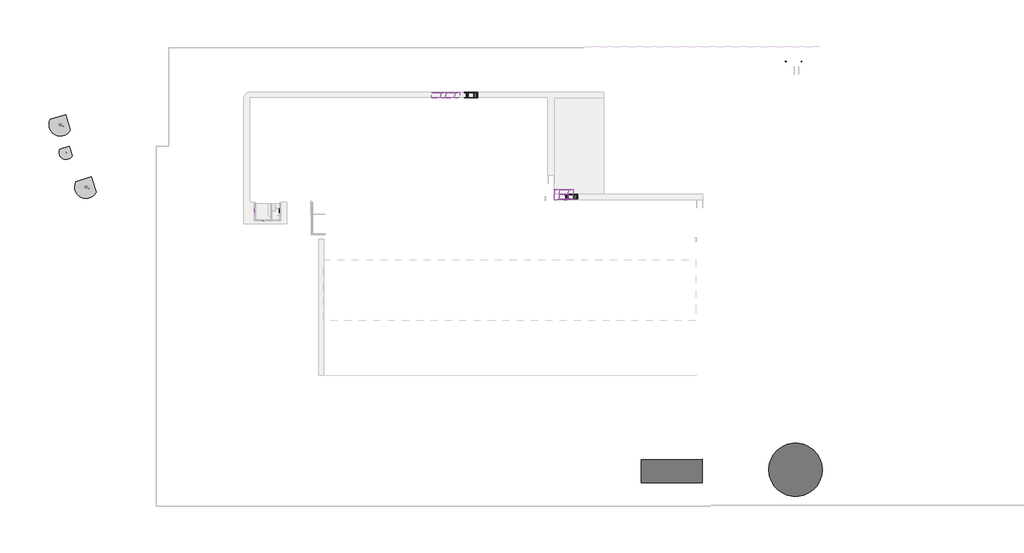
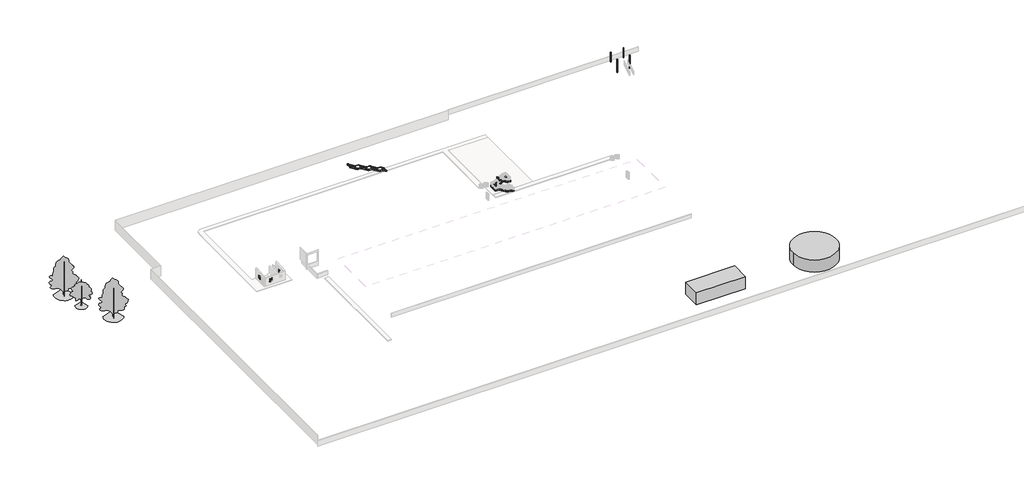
# One storey, part 5 of 5: 30 members, 14 proxies, 8 stair flights, 6 slabs, 3 geographic elements.
"""IFC4 building model written with IfcOpenShell, lengths in millimetres."""

from ifc_helpers import new_model, si_unit, frame, origin, place, context, project, spatial, polyline, outline, extrude, faceted_brep, transform, mapped, element, save
from components import generic_models_20_generic_models_4_ba02a456, generic_models_30_generic_models_30_3eaa5fd3, m_muntin_pattern_2x2_m_muntin_pattern_2x2_62480ac4, m_muntin_pattern_2x2_m_muntin_pattern_2x2_4fd78f17, m_trim_window_exterior_flat_with_sill_90d3a428, m_trim_window_interior_flat_picture_frame_6ca9b1f8, m_rpc_tree_deciduous_largetooth_aspen_7_6_meters_7a32e79d, m_rpc_tree_deciduous_lombardy_poplar_12_2_meters_1b309f58, non_monolithic_landing_6755de2e, non_monolithic_landing_e93c148b, non_monolithic_landing_cc45a5ca, non_monolithic_landing_4fb2c556, non_monolithic_landing_f0037221, non_monolithic_landing_c6595e20, stair_flight_50mm_tread_13mm_riser_ee1dcc22, stair_flight_50mm_tread_13mm_riser_03961c6e, stair_flight_50mm_tread_13mm_riser_1ab12aa5, stair_flight_50mm_tread_13mm_riser_1580f58f, stair_flight_50mm_tread_13mm_riser_b98c4656, stair_flight_50mm_tread_13mm_riser_43bc9998, stair_flight_50mm_tread_13mm_riser_e2b574ec, stair_flight_50mm_tread_13mm_riser_676722f2

model = new_model("IFC4")

# Units and contexts
model_context = context("Model", 3, world=origin())
ifc_project = project(units=[si_unit("LENGTHUNIT", "METRE", prefix="MILLI")], contexts=[model_context])

# Site, building, storey
site = spatial("IfcSite", under=ifc_project)
building = spatial("IfcBuilding", under=site)
storey = spatial("IfcBuildingStorey", under=building, Name="Hardstand", Elevation=42810.0)

# Proxies
placement = place(None, origin())
generic_models_20_generic_models_4_shape = generic_models_20_generic_models_4_ba02a456(model_context)
element("IfcBuildingElementProxy", 1, Name="Generic Models 20 : Generic Models 4", ObjectType="Generic Models 20 : Generic Models 4", at=placement, inside=storey, context=model_context, shape_type="MappedRepresentation", body=[
    mapped(generic_models_20_generic_models_4_shape, transform((0.0, 0.0, 0.0), x_axis=(1.0, 0.0, 0.0), y_axis=(0.0, 1.0, 0.0), z_axis=(0.0, 0.0, 1.0))),
])
generic_models_30_generic_models_30_shape = generic_models_30_generic_models_30_3eaa5fd3(model_context)
element("IfcBuildingElementProxy", 2, Name="Generic Models 30 : Generic Models 30", ObjectType="Generic Models 30 : Generic Models 30", at=placement, inside=storey, context=model_context, shape_type="MappedRepresentation", body=[
    mapped(generic_models_30_generic_models_30_shape, transform((0.0, 0.0, 0.0), x_axis=(1.0, 0.0, 0.0), y_axis=(0.0, 1.0, 0.0), z_axis=(0.0, 0.0, 1.0))),
])
m_muntin_pattern_2x2_m_muntin_pattern_2x2_shape = m_muntin_pattern_2x2_m_muntin_pattern_2x2_62480ac4(model_context)
element("IfcBuildingElementProxy", 3, Name="M_Muntin Pattern_2x2 : M_Muntin Pattern_2x2", ObjectType="M_Muntin Pattern_2x2 : M_Muntin Pattern_2x2", at=placement, inside=storey, context=model_context, shape_type="MappedRepresentation", body=[
    mapped(m_muntin_pattern_2x2_m_muntin_pattern_2x2_shape, transform((-145790.0708495, 9620.4941267, 43779.85), x_axis=(0.0, -1.0, 0.0), y_axis=(1.0, 0.0, 0.0), z_axis=(0.0, 0.0, 1.0))),
])
element("IfcBuildingElementProxy", 4, Name="M_Muntin Pattern_2x2 : M_Muntin Pattern_2x2", ObjectType="M_Muntin Pattern_2x2 : M_Muntin Pattern_2x2", at=placement, inside=storey, context=model_context, shape_type="MappedRepresentation", body=[
    mapped(m_muntin_pattern_2x2_m_muntin_pattern_2x2_shape, transform((-152141.276408, 9383.260357, 44056.2199193), x_axis=(0.0, 1.0, 0.0), y_axis=(-1.0, 0.0, 0.0), z_axis=(0.0, 0.0, 1.0))),
])
element("IfcBuildingElementProxy", 5, Name="M_Muntin Pattern_2x2 : M_Muntin Pattern_2x2", ObjectType="M_Muntin Pattern_2x2 : M_Muntin Pattern_2x2", at=placement, inside=storey, context=model_context, shape_type="MappedRepresentation", body=[
    mapped(m_muntin_pattern_2x2_m_muntin_pattern_2x2_shape, transform((-149868.8919664, 6998.5408271, 44093.5364148), x_axis=(-1.0, 0.0, 0.0), y_axis=(0.0, -1.0, 0.0), z_axis=(0.0, 0.0, 1.0))),
])
m_muntin_pattern_2x2_m_muntin_pattern_2x2_2_shape = m_muntin_pattern_2x2_m_muntin_pattern_2x2_4fd78f17(model_context)
element("IfcBuildingElementProxy", 6, Name="M_Muntin Pattern_2x2 : M_Muntin Pattern_2x2", ObjectType="M_Muntin Pattern_2x2 : M_Muntin Pattern_2x2", at=placement, inside=storey, context=model_context, shape_type="MappedRepresentation", body=[
    mapped(m_muntin_pattern_2x2_m_muntin_pattern_2x2_2_shape, transform((-145790.0708495, 9198.6691267, 43779.85), x_axis=(0.0, 1.0, 0.0), y_axis=(-1.0, 0.0, 0.0), z_axis=(0.0, 0.0, 1.0))),
])
element("IfcBuildingElementProxy", 7, Name="M_Muntin Pattern_2x2 : M_Muntin Pattern_2x2", ObjectType="M_Muntin Pattern_2x2 : M_Muntin Pattern_2x2", at=placement, inside=storey, context=model_context, shape_type="MappedRepresentation", body=[
    mapped(m_muntin_pattern_2x2_m_muntin_pattern_2x2_2_shape, transform((-152141.276408, 9805.085357, 44056.2199193), x_axis=(0.0, -1.0, 0.0), y_axis=(1.0, 0.0, 0.0), z_axis=(0.0, 0.0, 1.0))),
])
element("IfcBuildingElementProxy", 8, Name="M_Muntin Pattern_2x2 : M_Muntin Pattern_2x2", ObjectType="M_Muntin Pattern_2x2 : M_Muntin Pattern_2x2", at=placement, inside=storey, context=model_context, shape_type="MappedRepresentation", body=[
    mapped(m_muntin_pattern_2x2_m_muntin_pattern_2x2_2_shape, transform((-150290.7169664, 6998.5408271, 44093.5364148), x_axis=(1.0, 0.0, 0.0), y_axis=(0.0, 1.0, 0.0), z_axis=(0.0, 0.0, 1.0))),
])
m_trim_window_exterior_flat_with_sill_shape = m_trim_window_exterior_flat_with_sill_90d3a428(model_context)
element("IfcBuildingElementProxy", 9, Name="M_Trim-Window-Exterior-Flat : with Sill", ObjectType="M_Trim-Window-Exterior-Flat : with Sill", at=placement, inside=storey, context=model_context, shape_type="MappedRepresentation", body=[
    mapped(m_trim_window_exterior_flat_with_sill_shape, transform((-145780.5458495, 9409.5816267, 44610.0), x_axis=(0.0, 1.0, 0.0), y_axis=(0.0, 0.0, 1.0), z_axis=(1.0, 0.0, 0.0))),
])
element("IfcBuildingElementProxy", 10, Name="M_Trim-Window-Exterior-Flat : with Sill", ObjectType="M_Trim-Window-Exterior-Flat : with Sill", at=placement, inside=storey, context=model_context, shape_type="MappedRepresentation", body=[
    mapped(m_trim_window_exterior_flat_with_sill_shape, transform((-152150.801408, 9594.172857, 44886.3699193), x_axis=(0.0, -1.0, 0.0), y_axis=(0.0, 0.0, 1.0), z_axis=(-1.0, 0.0, 0.0))),
])
element("IfcBuildingElementProxy", 11, Name="M_Trim-Window-Exterior-Flat : with Sill", ObjectType="M_Trim-Window-Exterior-Flat : with Sill", at=placement, inside=storey, context=model_context, shape_type="MappedRepresentation", body=[
    mapped(m_trim_window_exterior_flat_with_sill_shape, transform((-150079.8044664, 6989.0158271, 44923.6864148), x_axis=(1.0, 0.0, 0.0), y_axis=(0.0, 0.0, 1.0), z_axis=(0.0, -1.0, 0.0))),
])
m_trim_window_interior_flat_picture_frame_shape = m_trim_window_interior_flat_picture_frame_6ca9b1f8(model_context)
element("IfcBuildingElementProxy", 12, Name="M_Trim-Window-Interior-Flat : Picture Frame", ObjectType="M_Trim-Window-Interior-Flat : Picture Frame", at=placement, inside=storey, context=model_context, shape_type="MappedRepresentation", body=[
    mapped(m_trim_window_interior_flat_picture_frame_shape, transform((-146050.5458495, 9409.5816267, 44610.0), x_axis=(0.0, -1.0, 0.0), y_axis=(0.0, 0.0, 1.0), z_axis=(-1.0, 0.0, 0.0))),
])
element("IfcBuildingElementProxy", 13, Name="M_Trim-Window-Interior-Flat : Picture Frame", ObjectType="M_Trim-Window-Interior-Flat : Picture Frame", at=placement, inside=storey, context=model_context, shape_type="MappedRepresentation", body=[
    mapped(m_trim_window_interior_flat_picture_frame_shape, transform((-151880.801408, 9594.172857, 44886.3699193), x_axis=(0.0, 1.0, 0.0), y_axis=(0.0, 0.0, 1.0), z_axis=(1.0, 0.0, 0.0))),
])
element("IfcBuildingElementProxy", 14, Name="M_Trim-Window-Interior-Flat : Picture Frame", ObjectType="M_Trim-Window-Interior-Flat : Picture Frame", at=placement, inside=storey, context=model_context, shape_type="MappedRepresentation", body=[
    mapped(m_trim_window_interior_flat_picture_frame_shape, transform((-150079.8044664, 7259.0158271, 44923.6864148), x_axis=(-1.0, 0.0, 0.0), y_axis=(0.0, 0.0, 1.0), z_axis=(0.0, 1.0, 0.0))),
])

# Geographic elements
m_rpc_tree_deciduous_largetooth_aspen_7_6_meters_shape = m_rpc_tree_deciduous_largetooth_aspen_7_6_meters_7a32e79d(model_context)
element("IfcGeographicElement", 15, ObjectType="M_RPC Tree - Deciduous : Largetooth Aspen - 7.6 Meters", at=placement, inside=storey, context=model_context, shape_type="MappedRepresentation", body=[
    mapped(m_rpc_tree_deciduous_largetooth_aspen_7_6_meters_shape, transform((-197976.2013904, 23610.6990649, 42810.0), x_axis=(0.8837420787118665, -0.4679742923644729, 0.0), y_axis=(0.4679742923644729, 0.8837420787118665, 0.0), z_axis=(0.0, 0.0, 1.0))),
])
m_rpc_tree_deciduous_lombardy_poplar_12_2_meters_shape = m_rpc_tree_deciduous_lombardy_poplar_12_2_meters_1b309f58(model_context)
element("IfcGeographicElement", 16, ObjectType="M_RPC Tree - Deciduous : Lombardy Poplar - 12.2 Meters", at=placement, inside=storey, context=model_context, shape_type="MappedRepresentation", body=[
    mapped(m_rpc_tree_deciduous_lombardy_poplar_12_2_meters_shape, transform((-199384.4027872, 30353.6189685, 42810.0), x_axis=(0.8837420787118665, -0.4679742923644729, 0.0), y_axis=(0.4679742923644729, 0.8837420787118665, 0.0), z_axis=(0.0, 0.0, 1.0))),
])
element("IfcGeographicElement", 17, ObjectType="M_RPC Tree - Deciduous : Lombardy Poplar - 12.2 Meters", at=placement, inside=storey, context=model_context, shape_type="MappedRepresentation", body=[
    mapped(m_rpc_tree_deciduous_lombardy_poplar_12_2_meters_shape, transform((-193147.2981612, 15207.4703267, 42810.0), x_axis=(0.8837420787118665, -0.4679742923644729, 0.0), y_axis=(0.4679742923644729, 0.8837420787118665, 0.0), z_axis=(0.0, 0.0, 1.0))),
])

# Members
element("IfcMember", 18, ObjectType="Stringer - 50mm Width", at=placement, inside=storey, context=model_context, shape_type="SweptSolid", body=[
    extrude(outline(polyline([(46312.5, -106631.3296755), (46712.5, -106517.3329408), (48238.9454932, -108977.8719448), (47768.2252967, -108977.8719448), (46312.5, -106631.3296755)])), frame((0.0, 36928.2777512, 0.0), z_axis=(0.0, 1.0, 0.0), x_axis=(0.0, 0.0, 1.0)), (0.0, 0.0, 1.0), 50.0),
])
element("IfcMember", 19, ObjectType="Stringer - 50mm Width", at=placement, inside=storey, context=model_context, shape_type="SweptSolid", body=[
    extrude(outline(polyline([(46312.5, -106631.3296755), (46712.5, -106517.3329408), (48238.9454932, -108977.8719448), (47768.2252967, -108977.8719448), (46312.5, -106631.3296755)])), frame((0.0, 38178.2777512, 0.0), z_axis=(0.0, 1.0, 0.0), x_axis=(0.0, 0.0, 1.0)), (0.0, 0.0, 1.0), 50.0),
])
element("IfcMember", 20, ObjectType="Stringer - 50mm Width", at=placement, inside=storey, context=model_context, shape_type="SweptSolid", body=[
    extrude(outline(polyline([(44805.0, -103271.3296755), (45205.0, -103157.3329408), (46712.5, -105587.3329408), (46312.5, -105701.3296755), (44805.0, -103271.3296755)])), frame((0.0, 36928.2777512, 0.0), z_axis=(0.0, 1.0, 0.0), x_axis=(0.0, 0.0, 1.0)), (0.0, 0.0, 1.0), 50.0),
])
element("IfcMember", 21, ObjectType="Stringer - 50mm Width", at=placement, inside=storey, context=model_context, shape_type="SweptSolid", body=[
    extrude(outline(polyline([(44805.0, -103271.3296755), (45205.0, -103157.3329408), (46712.5, -105587.3329408), (46312.5, -105701.3296755), (44805.0, -103271.3296755)])), frame((0.0, 38178.2777512, 0.0), z_axis=(0.0, 1.0, 0.0), x_axis=(0.0, 0.0, 1.0)), (0.0, 0.0, 1.0), 50.0),
])
element("IfcMember", 22, ObjectType="Stringer - 50mm Width", at=placement, inside=storey, context=model_context, shape_type="SweptSolid", body=[
    extrude(outline(polyline([(46712.5, -106517.3329408), (46312.5, -106631.3296755), (46312.5, -105701.3296755), (46712.5, -105587.3329408), (46712.5, -106517.3329408)])), frame((0.0, 36928.2777512, 0.0), z_axis=(0.0, 1.0, 0.0), x_axis=(0.0, 0.0, 1.0)), (0.0, 0.0, 1.0), 50.0),
])
element("IfcMember", 23, ObjectType="Stringer - 50mm Width", at=placement, inside=storey, context=model_context, shape_type="SweptSolid", body=[
    extrude(outline(polyline([(46312.5, -105701.3296755), (46712.5, -105587.3329408), (46712.5, -106517.3329408), (46312.5, -106631.3296755), (46312.5, -105701.3296755)])), frame((0.0, 38178.2777512, 0.0), z_axis=(0.0, 1.0, 0.0), x_axis=(0.0, 0.0, 1.0)), (0.0, 0.0, 1.0), 50.0),
])
element("IfcMember", 24, ObjectType="Stringer - 50mm Width", at=placement, inside=storey, context=model_context, shape_type="SweptSolid", body=[
    extrude(outline(polyline([(43297.5, -99911.3296755), (43697.5, -99797.3329408), (45205.0, -102227.3329408), (44805.0, -102341.3296755), (43297.5, -99911.3296755)])), frame((0.0, 36928.2777512, 0.0), z_axis=(0.0, 1.0, 0.0), x_axis=(0.0, 0.0, 1.0)), (0.0, 0.0, 1.0), 50.0),
])
element("IfcMember", 25, ObjectType="Stringer - 50mm Width", at=placement, inside=storey, context=model_context, shape_type="SweptSolid", body=[
    extrude(outline(polyline([(43297.5, -99911.3296755), (43697.5, -99797.3329408), (45205.0, -102227.3329408), (44805.0, -102341.3296755), (43297.5, -99911.3296755)])), frame((0.0, 38178.2777512, 0.0), z_axis=(0.0, 1.0, 0.0), x_axis=(0.0, 0.0, 1.0)), (0.0, 0.0, 1.0), 50.0),
])
element("IfcMember", 26, ObjectType="Stringer - 50mm Width", at=placement, inside=storey, context=model_context, shape_type="SweptSolid", body=[
    extrude(outline(polyline([(45205.0, -103157.3329408), (44805.0, -103271.3296755), (44805.0, -102341.3296755), (45205.0, -102227.3329408), (45205.0, -103157.3329408)])), frame((0.0, 36928.2777512, 0.0), z_axis=(0.0, 1.0, 0.0), x_axis=(0.0, 0.0, 1.0)), (0.0, 0.0, 1.0), 50.0),
])
element("IfcMember", 27, ObjectType="Stringer - 50mm Width", at=placement, inside=storey, context=model_context, shape_type="SweptSolid", body=[
    extrude(outline(polyline([(44805.0, -102341.3296755), (45205.0, -102227.3329408), (45205.0, -103157.3329408), (44805.0, -103271.3296755), (44805.0, -102341.3296755)])), frame((0.0, 38178.2777512, 0.0), z_axis=(0.0, 1.0, 0.0), x_axis=(0.0, 0.0, 1.0)), (0.0, 0.0, 1.0), 50.0),
])
element("IfcMember", 28, ObjectType="Stringer - 50mm Width", at=placement, inside=storey, context=model_context, shape_type="SweptSolid", body=[
    extrude(outline(polyline([(42810.0, -97817.8719448), (43046.4454932, -97817.8719448), (43697.5, -98867.3329408), (43297.5, -98981.3296755), (42810.0, -98195.50878), (42810.0, -97817.8719448)])), frame((0.0, 36928.2777512, 0.0), z_axis=(0.0, 1.0, 0.0), x_axis=(0.0, 0.0, 1.0)), (0.0, 0.0, 1.0), 50.0),
])
element("IfcMember", 29, ObjectType="Stringer - 50mm Width", at=placement, inside=storey, context=model_context, shape_type="SweptSolid", body=[
    extrude(outline(polyline([(42810.0, -97817.8719448), (43046.4454932, -97817.8719448), (43697.5, -98867.3329408), (43297.5, -98981.3296755), (42810.0, -98195.50878), (42810.0, -97817.8719448)])), frame((0.0, 38178.2777512, 0.0), z_axis=(0.0, 1.0, 0.0), x_axis=(0.0, 0.0, 1.0)), (0.0, 0.0, 1.0), 50.0),
])
element("IfcMember", 30, ObjectType="Stringer - 50mm Width", at=placement, inside=storey, context=model_context, shape_type="SweptSolid", body=[
    extrude(outline(polyline([(43697.5, -99797.3329408), (43297.5, -99911.3296755), (43297.5, -98981.3296755), (43697.5, -98867.3329408), (43697.5, -99797.3329408)])), frame((0.0, 36928.2777512, 0.0), z_axis=(0.0, 1.0, 0.0), x_axis=(0.0, 0.0, 1.0)), (0.0, 0.0, 1.0), 50.0),
])
element("IfcMember", 31, ObjectType="Stringer - 50mm Width", at=placement, inside=storey, context=model_context, shape_type="SweptSolid", body=[
    extrude(outline(polyline([(43297.5, -98981.3296755), (43697.5, -98867.3329408), (43697.5, -99797.3329408), (43297.5, -99911.3296755), (43297.5, -98981.3296755)])), frame((0.0, 38178.2777512, 0.0), z_axis=(0.0, 1.0, 0.0), x_axis=(0.0, 0.0, 1.0)), (0.0, 0.0, 1.0), 50.0),
])
element("IfcMember", 32, ObjectType="Stringer - 50mm Width", at=placement, inside=storey, context=model_context, shape_type="SweptSolid", body=[
    extrude(outline(polyline([(46312.5, -75612.0490346), (46712.5, -75498.0522998), (48238.9454932, -77958.5913038), (47768.2252967, -77958.5913038), (46312.5, -75612.0490346)])), frame((0.0, 12142.1710387, 0.0), z_axis=(0.0, 1.0, 0.0), x_axis=(0.0, 0.0, 1.0)), (0.0, 0.0, 1.0), 50.0),
])
element("IfcMember", 33, ObjectType="Stringer - 50mm Width", at=placement, inside=storey, context=model_context, shape_type="Brep", body=[
    faceted_brep([(-77958.5913038, 13442.1710387, 48238.9454932), (-77958.5913038, 13442.1710387, 47768.2252967), (-77958.5913038, 13392.1710387, 47768.2252967), (-77958.5913038, 13392.1710387, 48238.9454932), (-75798.5913038, 13392.1710387, 46898.9454932), (-75798.5913038, 13442.1710387, 46898.9454932), (-75798.5913038, 13392.1710387, 46428.2252967), (-75798.5913038, 13392.1710387, 46731.4454932), (-75798.5913038, 13442.1710387, 46428.2252967)], [[[0, 1, 2, 3]], [[4, 5, 0, 3]], [[6, 7, 4, 3, 2]], [[8, 6, 2, 1]], [[5, 8, 1, 0]], [[5, 4, 7, 6, 8]]]),
])
element("IfcMember", 34, ObjectType="Stringer - 50mm Width", at=placement, inside=storey, context=model_context, shape_type="SweptSolid", body=[
    extrude(outline(polyline([(45205.0, -78259.1303078), (44805.0, -78145.1335731), (46312.5, -75715.1335731), (46712.5, -75829.1303078), (45205.0, -78259.1303078)])), frame((0.0, 14592.1710387, 0.0), z_axis=(0.0, 1.0, 0.0), x_axis=(0.0, 0.0, 1.0)), (0.0, 0.0, 1.0), 50.0),
])
element("IfcMember", 35, ObjectType="Stringer - 50mm Width", at=placement, inside=storey, context=model_context, shape_type="Brep", body=[
    faceted_brep([(-77958.5913038, 13392.1710387, 45391.4454932), (-77958.5913038, 13342.1710387, 45391.4454932), (-75798.5913038, 13342.1710387, 46731.4454932), (-75798.5913038, 13392.1710387, 46731.4454932), (-77958.5913038, 13392.1710387, 44920.7252967), (-75798.5913038, 13392.1710387, 46428.2252967), (-75798.5913038, 13392.1710387, 46260.7252967), (-77958.5913038, 13342.1710387, 44920.7252967), (-75798.5913038, 13342.1710387, 46260.7252967)], [[[0, 1, 2, 3]], [[4, 0, 3, 5, 6]], [[7, 4, 6, 8]], [[1, 7, 8, 2]], [[1, 0, 4, 7]], [[2, 8, 6, 5, 3]]]),
])
element("IfcMember", 36, ObjectType="Stringer - 50mm Width", at=placement, inside=storey, context=model_context, shape_type="Brep", body=[
    faceted_brep([(-75498.0522998, 12192.1710387, 46712.5), (-75498.0522998, 12142.1710387, 46712.5), (-74548.5913038, 12142.1710387, 46712.5), (-74598.5913038, 12192.1710387, 46712.5), (-75612.0490346, 12192.1710387, 46312.5), (-74598.5913038, 12192.1710387, 46312.5), (-75612.0490346, 12142.1710387, 46312.5), (-74548.5913038, 12142.1710387, 46312.5)], [[[0, 1, 2, 3]], [[4, 0, 3, 5]], [[6, 4, 5, 7]], [[1, 6, 7, 2]], [[1, 0, 4, 6]], [[2, 7, 5, 3]]]),
])
element("IfcMember", 37, ObjectType="Stringer - 50mm Width", at=placement, inside=storey, context=model_context, shape_type="SweptSolid", body=[
    extrude(outline(polyline([(-74548.5913038, 12142.1710387), (-74598.5913038, 12192.1710387), (-74598.5913038, 14592.1710387), (-74548.5913038, 14642.1710387), (-74548.5913038, 12142.1710387)])), frame((0.0, 0.0, 46312.5), z_axis=(0.0, 0.0, 1.0), x_axis=(1.0, 0.0, 0.0)), (0.0, 0.0, 1.0), 400.0),
])
element("IfcMember", 38, ObjectType="Stringer - 50mm Width", at=placement, inside=storey, context=model_context, shape_type="Brep", body=[
    faceted_brep([(-74598.5913038, 14592.1710387, 46712.5), (-74548.5913038, 14642.1710387, 46712.5), (-75829.1303078, 14642.1710387, 46712.5), (-75829.1303078, 14592.1710387, 46712.5), (-74598.5913038, 14592.1710387, 46312.5), (-75715.1335731, 14592.1710387, 46312.5), (-74548.5913038, 14642.1710387, 46312.5), (-75715.1335731, 14642.1710387, 46312.5)], [[[0, 1, 2, 3]], [[4, 0, 3, 5]], [[6, 4, 5, 7]], [[1, 6, 7, 2]], [[1, 0, 4, 6]], [[2, 7, 5, 3]]]),
])
element("IfcMember", 39, ObjectType="Stringer - 50mm Width", at=placement, inside=storey, context=model_context, shape_type="SweptSolid", body=[
    extrude(outline(polyline([(43297.5, -75612.0490346), (43697.5, -75498.0522998), (45205.0, -77928.0522998), (44805.0, -78042.0490346), (43297.5, -75612.0490346)])), frame((0.0, 12092.1710387, 0.0), z_axis=(0.0, 1.0, 0.0), x_axis=(0.0, 0.0, 1.0)), (0.0, 0.0, 1.0), 50.0),
])
element("IfcMember", 40, ObjectType="Stringer - 50mm Width", at=placement, inside=storey, context=model_context, shape_type="SweptSolid", body=[
    extrude(outline(polyline([(43297.5, -75612.0490346), (43697.5, -75498.0522998), (45192.9269747, -77908.5913038), (44722.2067781, -77908.5913038), (43297.5, -75612.0490346)])), frame((0.0, 13342.1710387, 0.0), z_axis=(0.0, 1.0, 0.0), x_axis=(0.0, 0.0, 1.0)), (0.0, 0.0, 1.0), 50.0),
])
element("IfcMember", 41, ObjectType="Stringer - 50mm Width", at=placement, inside=storey, context=model_context, shape_type="Brep", body=[
    faceted_brep([(-78259.1303078, 14592.1710387, 45205.0), (-78259.1303078, 14642.1710387, 45205.0), (-79208.5913038, 14642.1710387, 45205.0), (-79158.5913038, 14592.1710387, 45205.0), (-78145.1335731, 14592.1710387, 44805.0), (-79158.5913038, 14592.1710387, 44805.0), (-78145.1335731, 14642.1710387, 44805.0), (-79208.5913038, 14642.1710387, 44805.0)], [[[0, 1, 2, 3]], [[4, 0, 3, 5]], [[6, 4, 5, 7]], [[1, 6, 7, 2]], [[1, 0, 4, 6]], [[2, 7, 5, 3]]]),
])
element("IfcMember", 42, ObjectType="Stringer - 50mm Width", at=placement, inside=storey, context=model_context, shape_type="SweptSolid", body=[
    extrude(outline(polyline([(-79208.5913038, 14642.1710387), (-79158.5913038, 14592.1710387), (-79158.5913038, 12142.1710387), (-79208.5913038, 12092.1710387), (-79208.5913038, 14642.1710387)])), frame((0.0, 0.0, 44805.0), z_axis=(0.0, 0.0, 1.0), x_axis=(1.0, 0.0, 0.0)), (0.0, 0.0, 1.0), 400.0),
])
element("IfcMember", 43, ObjectType="Stringer - 50mm Width", at=placement, inside=storey, context=model_context, shape_type="Brep", body=[
    faceted_brep([(-79158.5913038, 12142.1710387, 45205.0), (-79208.5913038, 12092.1710387, 45205.0), (-77928.0522998, 12092.1710387, 45205.0), (-77928.0522998, 12142.1710387, 45205.0), (-79158.5913038, 12142.1710387, 44805.0), (-78042.0490346, 12142.1710387, 44805.0), (-79208.5913038, 12092.1710387, 44805.0), (-78042.0490346, 12092.1710387, 44805.0)], [[[0, 1, 2, 3]], [[4, 0, 3, 5]], [[6, 4, 5, 7]], [[1, 6, 7, 2]], [[1, 0, 4, 6]], [[2, 7, 5, 3]]]),
])
element("IfcMember", 44, ObjectType="Stringer - 50mm Width", at=placement, inside=storey, context=model_context, shape_type="SweptSolid", body=[
    extrude(outline(polyline([(42810.0, -73468.5913038), (43046.4454932, -73468.5913038), (43697.5, -74518.0522998), (43297.5, -74632.0490346), (42810.0, -73846.228139), (42810.0, -73468.5913038)])), frame((0.0, 12092.1710387, 0.0), z_axis=(0.0, 1.0, 0.0), x_axis=(0.0, 0.0, 1.0)), (0.0, 0.0, 1.0), 50.0),
])
element("IfcMember", 45, ObjectType="Stringer - 50mm Width", at=placement, inside=storey, context=model_context, shape_type="SweptSolid", body=[
    extrude(outline(polyline([(42810.0, -73468.5913038), (43046.4454932, -73468.5913038), (43697.5, -74518.0522998), (43297.5, -74632.0490346), (42810.0, -73846.228139), (42810.0, -73468.5913038)])), frame((0.0, 13342.1710387, 0.0), z_axis=(0.0, 1.0, 0.0), x_axis=(0.0, 0.0, 1.0)), (0.0, 0.0, 1.0), 50.0),
])
element("IfcMember", 46, ObjectType="Stringer - 50mm Width", at=placement, inside=storey, context=model_context, shape_type="SweptSolid", body=[
    extrude(outline(polyline([(43697.5, -75498.0522998), (43297.5, -75612.0490346), (43297.5, -74632.0490346), (43697.5, -74518.0522998), (43697.5, -75498.0522998)])), frame((0.0, 12092.1710387, 0.0), z_axis=(0.0, 1.0, 0.0), x_axis=(0.0, 0.0, 1.0)), (0.0, 0.0, 1.0), 50.0),
])
element("IfcMember", 47, ObjectType="Stringer - 50mm Width", at=placement, inside=storey, context=model_context, shape_type="SweptSolid", body=[
    extrude(outline(polyline([(43297.5, -74632.0490346), (43697.5, -74518.0522998), (43697.5, -75498.0522998), (43297.5, -75612.0490346), (43297.5, -74632.0490346)])), frame((0.0, 13342.1710387, 0.0), z_axis=(0.0, 1.0, 0.0), x_axis=(0.0, 0.0, 1.0)), (0.0, 0.0, 1.0), 50.0),
])

# Slabs
non_monolithic_landing_shape = non_monolithic_landing_6755de2e(model_context)
element("IfcSlab", 48, ObjectType="Non-Monolithic Landing", at=placement, inside=storey, context=model_context, shape_type="MappedRepresentation", body=[
    mapped(non_monolithic_landing_shape, transform((0.0, 0.0, 0.0), x_axis=(1.0, 0.0, 0.0), y_axis=(0.0, 1.0, 0.0), z_axis=(0.0, 0.0, 1.0))),
])
non_monolithic_landing_2_shape = non_monolithic_landing_e93c148b(model_context)
element("IfcSlab", 49, ObjectType="Non-Monolithic Landing", at=placement, inside=storey, context=model_context, shape_type="MappedRepresentation", body=[
    mapped(non_monolithic_landing_2_shape, transform((0.0, 0.0, 0.0), x_axis=(1.0, 0.0, 0.0), y_axis=(0.0, 1.0, 0.0), z_axis=(0.0, 0.0, 1.0))),
])
non_monolithic_landing_3_shape = non_monolithic_landing_cc45a5ca(model_context)
element("IfcSlab", 50, ObjectType="Non-Monolithic Landing", at=placement, inside=storey, context=model_context, shape_type="MappedRepresentation", body=[
    mapped(non_monolithic_landing_3_shape, transform((0.0, 0.0, 0.0), x_axis=(1.0, 0.0, 0.0), y_axis=(0.0, 1.0, 0.0), z_axis=(0.0, 0.0, 1.0))),
])
non_monolithic_landing_4_shape = non_monolithic_landing_4fb2c556(model_context)
element("IfcSlab", 51, ObjectType="Non-Monolithic Landing", at=placement, inside=storey, context=model_context, shape_type="MappedRepresentation", body=[
    mapped(non_monolithic_landing_4_shape, transform((0.0, 0.0, 0.0), x_axis=(1.0, 0.0, 0.0), y_axis=(0.0, 1.0, 0.0), z_axis=(0.0, 0.0, 1.0))),
])
non_monolithic_landing_5_shape = non_monolithic_landing_f0037221(model_context)
element("IfcSlab", 52, ObjectType="Non-Monolithic Landing", at=placement, inside=storey, context=model_context, shape_type="MappedRepresentation", body=[
    mapped(non_monolithic_landing_5_shape, transform((0.0, 0.0, 0.0), x_axis=(1.0, 0.0, 0.0), y_axis=(0.0, 1.0, 0.0), z_axis=(0.0, 0.0, 1.0))),
])
non_monolithic_landing_6_shape = non_monolithic_landing_c6595e20(model_context)
element("IfcSlab", 53, ObjectType="Non-Monolithic Landing", at=placement, inside=storey, context=model_context, shape_type="MappedRepresentation", body=[
    mapped(non_monolithic_landing_6_shape, transform((0.0, 0.0, 0.0), x_axis=(1.0, 0.0, 0.0), y_axis=(0.0, 1.0, 0.0), z_axis=(0.0, 0.0, 1.0))),
])

# Stair flights
stair_flight_50mm_tread_13mm_riser_shape = stair_flight_50mm_tread_13mm_riser_ee1dcc22(model_context)
element("IfcStairFlight", 54, ObjectType="50mm Tread 13mm Riser", at=placement, inside=storey, context=model_context, shape_type="MappedRepresentation", body=[
    mapped(stair_flight_50mm_tread_13mm_riser_shape, transform((0.0, 0.0, 0.0), x_axis=(1.0, 0.0, 0.0), y_axis=(0.0, 1.0, 0.0), z_axis=(0.0, 0.0, 1.0))),
])
stair_flight_50mm_tread_13mm_riser_2_shape = stair_flight_50mm_tread_13mm_riser_03961c6e(model_context)
element("IfcStairFlight", 55, ObjectType="50mm Tread 13mm Riser", at=placement, inside=storey, context=model_context, shape_type="MappedRepresentation", body=[
    mapped(stair_flight_50mm_tread_13mm_riser_2_shape, transform((0.0, 0.0, 0.0), x_axis=(1.0, 0.0, 0.0), y_axis=(0.0, 1.0, 0.0), z_axis=(0.0, 0.0, 1.0))),
])
stair_flight_50mm_tread_13mm_riser_3_shape = stair_flight_50mm_tread_13mm_riser_1ab12aa5(model_context)
element("IfcStairFlight", 56, ObjectType="50mm Tread 13mm Riser", at=placement, inside=storey, context=model_context, shape_type="MappedRepresentation", body=[
    mapped(stair_flight_50mm_tread_13mm_riser_3_shape, transform((0.0, 0.0, 0.0), x_axis=(1.0, 0.0, 0.0), y_axis=(0.0, 1.0, 0.0), z_axis=(0.0, 0.0, 1.0))),
])
stair_flight_50mm_tread_13mm_riser_4_shape = stair_flight_50mm_tread_13mm_riser_1580f58f(model_context)
element("IfcStairFlight", 57, ObjectType="50mm Tread 13mm Riser", at=placement, inside=storey, context=model_context, shape_type="MappedRepresentation", body=[
    mapped(stair_flight_50mm_tread_13mm_riser_4_shape, transform((0.0, 0.0, 0.0), x_axis=(1.0, 0.0, 0.0), y_axis=(0.0, 1.0, 0.0), z_axis=(0.0, 0.0, 1.0))),
])
stair_flight_50mm_tread_13mm_riser_5_shape = stair_flight_50mm_tread_13mm_riser_b98c4656(model_context)
element("IfcStairFlight", 58, ObjectType="50mm Tread 13mm Riser", at=placement, inside=storey, context=model_context, shape_type="MappedRepresentation", body=[
    mapped(stair_flight_50mm_tread_13mm_riser_5_shape, transform((0.0, 0.0, 0.0), x_axis=(1.0, 0.0, 0.0), y_axis=(0.0, 1.0, 0.0), z_axis=(0.0, 0.0, 1.0))),
])
stair_flight_50mm_tread_13mm_riser_6_shape = stair_flight_50mm_tread_13mm_riser_43bc9998(model_context)
element("IfcStairFlight", 59, ObjectType="50mm Tread 13mm Riser", at=placement, inside=storey, context=model_context, shape_type="MappedRepresentation", body=[
    mapped(stair_flight_50mm_tread_13mm_riser_6_shape, transform((0.0, 0.0, 0.0), x_axis=(1.0, 0.0, 0.0), y_axis=(0.0, 1.0, 0.0), z_axis=(0.0, 0.0, 1.0))),
])
stair_flight_50mm_tread_13mm_riser_7_shape = stair_flight_50mm_tread_13mm_riser_e2b574ec(model_context)
element("IfcStairFlight", 60, ObjectType="50mm Tread 13mm Riser", at=placement, inside=storey, context=model_context, shape_type="MappedRepresentation", body=[
    mapped(stair_flight_50mm_tread_13mm_riser_7_shape, transform((0.0, 0.0, 0.0), x_axis=(1.0, 0.0, 0.0), y_axis=(0.0, 1.0, 0.0), z_axis=(0.0, 0.0, 1.0))),
])
stair_flight_50mm_tread_13mm_riser_8_shape = stair_flight_50mm_tread_13mm_riser_676722f2(model_context)
element("IfcStairFlight", 61, ObjectType="50mm Tread 13mm Riser", at=placement, inside=storey, context=model_context, shape_type="MappedRepresentation", body=[
    mapped(stair_flight_50mm_tread_13mm_riser_8_shape, transform((0.0, 0.0, 0.0), x_axis=(1.0, 0.0, 0.0), y_axis=(0.0, 1.0, 0.0), z_axis=(0.0, 0.0, 1.0))),
])

save(model, "model.ifc")
